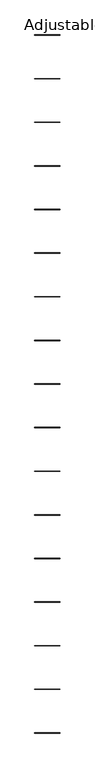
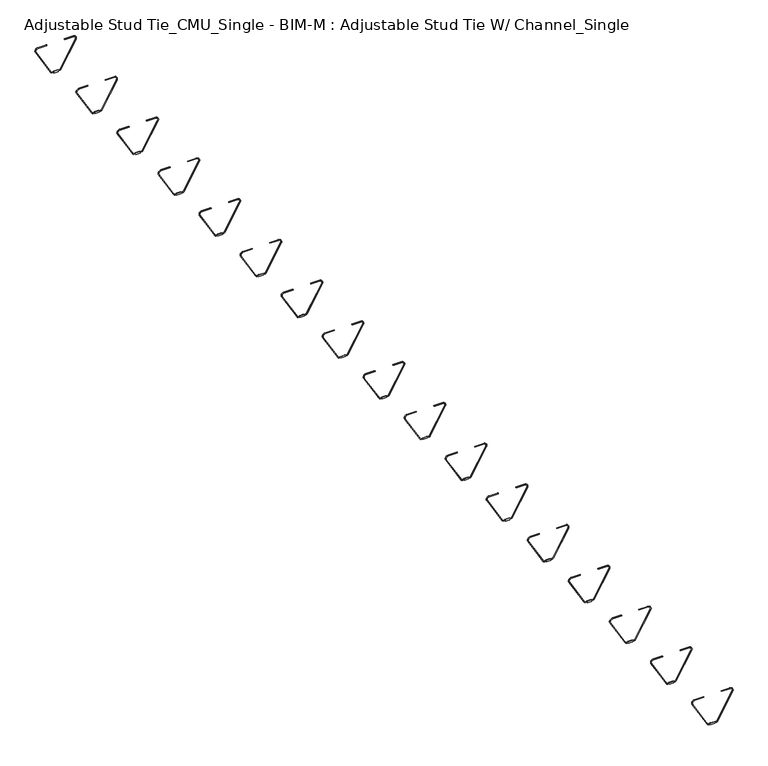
"""IFC4 building model written with IfcOpenShell, lengths in millimetres: proxy geometry, Adjustable Stud Tie_CMU_Single - BIM-M : Adjustable Stud Tie W/ Channel_Single."""

from ifc_helpers import new_model, si_unit, point, frame, frame_2d, origin, place, context, project, spatial, polyline, circle_curve, trimmed, segment, composite_curve, outline, extrude, source, transform, mapped, element, save


def adjustable_stud_tie_cmu_single_bim_m_adjustable_stud_tie_w_f0d1ca4a(model_context):
    return source(origin(), model_context, "Body", "SweptSolid", [
        extrude(outline(composite_curve([segment(polyline([(-115.6954737, -10.6919936), (-115.6954737, -6.35), (-117.475, -6.35), (-117.475, 6.35), (-115.6954737, 6.35), (-115.6954737, 10.6919936)]), True, "CONTINUOUS"), segment(trimmed(circle_curve(frame_2d((-111.2621335, 10.5975194)), 4.4343467), [point((-115.6954737, 10.6919936))], [point((-113.4793069, 14.4377763))], False, "CARTESIAN"), True, "CONTINUOUS"), segment(polyline([(-113.4793069, 14.4377763), (-38.3089403, 57.8374077)]), True, "CONTINUOUS"), segment(trimmed(circle_curve(frame_2d((-34.2420568, 50.7933588)), 8.133767), [point((-38.3089403, 57.8374077))], [point((-26.1197927, 51.2257847))], False, "CARTESIAN"), True, "CONTINUOUS"), segment(polyline([(-26.1197927, 51.2257847), (-26.1197927, 25.4), (-27.7072927, 25.4), (-27.7072927, 51.1812638)]), True, "CONTINUOUS"), segment(trimmed(circle_curve(frame_2d((-34.2420568, 50.7933588)), 6.546267), [point((-27.7072927, 51.1812638))], [point((-37.5151903, 56.4625923))], True, "CARTESIAN"), True, "CONTINUOUS"), segment(polyline([(-37.5151903, 56.4625923), (-112.6855569, 13.062961)]), True, "CONTINUOUS"), segment(trimmed(circle_curve(frame_2d((-111.2621335, 10.5975194)), 2.8468467), [point((-112.6855569, 13.062961))], [point((-114.1079737, 10.6732143))], True, "CARTESIAN"), True, "CONTINUOUS"), segment(polyline([(-114.1079737, 10.6732143), (-114.1079737, 6.35), (-112.7125, 6.35), (-112.7125, -6.35), (-114.1079737, -6.35), (-114.1079737, -10.6732143)]), True, "CONTINUOUS"), segment(trimmed(circle_curve(frame_2d((-111.2621335, -10.5975194)), 2.8468467), [point((-114.1079737, -10.6732143))], [point((-112.6855569, -13.062961))], True, "CARTESIAN"), True, "CONTINUOUS"), segment(polyline([(-112.6855569, -13.062961), (-37.5151903, -56.4625923)]), True, "CONTINUOUS"), segment(trimmed(circle_curve(frame_2d((-34.2420568, -50.7933588)), 6.546267), [point((-37.5151903, -56.4625923))], [point((-27.7072927, -51.1812638))], True, "CARTESIAN"), True, "CONTINUOUS"), segment(polyline([(-27.7072927, -51.1812638), (-27.7072927, -25.4), (-26.1197927, -25.4), (-26.1197927, -51.2257847)]), True, "CONTINUOUS"), segment(trimmed(circle_curve(frame_2d((-34.2420568, -50.7933588)), 8.133767), [point((-26.1197927, -51.2257847))], [point((-38.3089403, -57.8374077))], False, "CARTESIAN"), True, "CONTINUOUS"), segment(polyline([(-38.3089403, -57.8374077), (-113.4793069, -14.4377763)]), True, "CONTINUOUS"), segment(trimmed(circle_curve(frame_2d((-111.2621335, -10.5975194)), 4.4343467), [point((-113.4793069, -14.4377763))], [point((-115.6954737, -10.6919936))], False, "CARTESIAN"), True, "CONTINUOUS")], self_intersect=False)), frame((0.0, 8331.2, 0.0), z_axis=(0.0, 1.0, 0.0), x_axis=(0.0, 0.0, 1.0)), (0.0, 0.0, 1.0), 1.5875),
        extrude(outline(composite_curve([segment(polyline([(-115.6954737, -10.6919936), (-115.6954737, -6.35), (-117.475, -6.35), (-117.475, 6.35), (-115.6954737, 6.35), (-115.6954737, 10.6919936)]), True, "CONTINUOUS"), segment(trimmed(circle_curve(frame_2d((-111.2621335, 10.5975194)), 4.4343467), [point((-115.6954737, 10.6919936))], [point((-113.4793069, 14.4377763))], False, "CARTESIAN"), True, "CONTINUOUS"), segment(polyline([(-113.4793069, 14.4377763), (-38.3089403, 57.8374077)]), True, "CONTINUOUS"), segment(trimmed(circle_curve(frame_2d((-34.2420568, 50.7933588)), 8.133767), [point((-38.3089403, 57.8374077))], [point((-26.1197927, 51.2257847))], False, "CARTESIAN"), True, "CONTINUOUS"), segment(polyline([(-26.1197927, 51.2257847), (-26.1197927, 25.4), (-27.7072927, 25.4), (-27.7072927, 51.1812638)]), True, "CONTINUOUS"), segment(trimmed(circle_curve(frame_2d((-34.2420568, 50.7933588)), 6.546267), [point((-27.7072927, 51.1812638))], [point((-37.5151903, 56.4625923))], True, "CARTESIAN"), True, "CONTINUOUS"), segment(polyline([(-37.5151903, 56.4625923), (-112.6855569, 13.062961)]), True, "CONTINUOUS"), segment(trimmed(circle_curve(frame_2d((-111.2621335, 10.5975194)), 2.8468467), [point((-112.6855569, 13.062961))], [point((-114.1079737, 10.6732143))], True, "CARTESIAN"), True, "CONTINUOUS"), segment(polyline([(-114.1079737, 10.6732143), (-114.1079737, 6.35), (-112.7125, 6.35), (-112.7125, -6.35), (-114.1079737, -6.35), (-114.1079737, -10.6732143)]), True, "CONTINUOUS"), segment(trimmed(circle_curve(frame_2d((-111.2621335, -10.5975194)), 2.8468467), [point((-114.1079737, -10.6732143))], [point((-112.6855569, -13.062961))], True, "CARTESIAN"), True, "CONTINUOUS"), segment(polyline([(-112.6855569, -13.062961), (-37.5151903, -56.4625923)]), True, "CONTINUOUS"), segment(trimmed(circle_curve(frame_2d((-34.2420568, -50.7933588)), 6.546267), [point((-37.5151903, -56.4625923))], [point((-27.7072927, -51.1812638))], True, "CARTESIAN"), True, "CONTINUOUS"), segment(polyline([(-27.7072927, -51.1812638), (-27.7072927, -25.4), (-26.1197927, -25.4), (-26.1197927, -51.2257847)]), True, "CONTINUOUS"), segment(trimmed(circle_curve(frame_2d((-34.2420568, -50.7933588)), 8.133767), [point((-26.1197927, -51.2257847))], [point((-38.3089403, -57.8374077))], False, "CARTESIAN"), True, "CONTINUOUS"), segment(polyline([(-38.3089403, -57.8374077), (-113.4793069, -14.4377763)]), True, "CONTINUOUS"), segment(trimmed(circle_curve(frame_2d((-111.2621335, -10.5975194)), 4.4343467), [point((-113.4793069, -14.4377763))], [point((-115.6954737, -10.6919936))], False, "CARTESIAN"), True, "CONTINUOUS")], self_intersect=False)), frame((0.0, 8128.0, 0.0), z_axis=(0.0, 1.0, 0.0), x_axis=(0.0, 0.0, 1.0)), (0.0, 0.0, 1.0), 1.5875),
        extrude(outline(composite_curve([segment(polyline([(-115.6954737, -10.6919936), (-115.6954737, -6.35), (-117.475, -6.35), (-117.475, 6.35), (-115.6954737, 6.35), (-115.6954737, 10.6919936)]), True, "CONTINUOUS"), segment(trimmed(circle_curve(frame_2d((-111.2621335, 10.5975194)), 4.4343467), [point((-115.6954737, 10.6919936))], [point((-113.4793069, 14.4377763))], False, "CARTESIAN"), True, "CONTINUOUS"), segment(polyline([(-113.4793069, 14.4377763), (-38.3089403, 57.8374077)]), True, "CONTINUOUS"), segment(trimmed(circle_curve(frame_2d((-34.2420568, 50.7933588)), 8.133767), [point((-38.3089403, 57.8374077))], [point((-26.1197927, 51.2257847))], False, "CARTESIAN"), True, "CONTINUOUS"), segment(polyline([(-26.1197927, 51.2257847), (-26.1197927, 25.4), (-27.7072927, 25.4), (-27.7072927, 51.1812638)]), True, "CONTINUOUS"), segment(trimmed(circle_curve(frame_2d((-34.2420568, 50.7933588)), 6.546267), [point((-27.7072927, 51.1812638))], [point((-37.5151903, 56.4625923))], True, "CARTESIAN"), True, "CONTINUOUS"), segment(polyline([(-37.5151903, 56.4625923), (-112.6855569, 13.062961)]), True, "CONTINUOUS"), segment(trimmed(circle_curve(frame_2d((-111.2621335, 10.5975194)), 2.8468467), [point((-112.6855569, 13.062961))], [point((-114.1079737, 10.6732143))], True, "CARTESIAN"), True, "CONTINUOUS"), segment(polyline([(-114.1079737, 10.6732143), (-114.1079737, 6.35), (-112.7125, 6.35), (-112.7125, -6.35), (-114.1079737, -6.35), (-114.1079737, -10.6732143)]), True, "CONTINUOUS"), segment(trimmed(circle_curve(frame_2d((-111.2621335, -10.5975194)), 2.8468467), [point((-114.1079737, -10.6732143))], [point((-112.6855569, -13.062961))], True, "CARTESIAN"), True, "CONTINUOUS"), segment(polyline([(-112.6855569, -13.062961), (-37.5151903, -56.4625923)]), True, "CONTINUOUS"), segment(trimmed(circle_curve(frame_2d((-34.2420568, -50.7933588)), 6.546267), [point((-37.5151903, -56.4625923))], [point((-27.7072927, -51.1812638))], True, "CARTESIAN"), True, "CONTINUOUS"), segment(polyline([(-27.7072927, -51.1812638), (-27.7072927, -25.4), (-26.1197927, -25.4), (-26.1197927, -51.2257847)]), True, "CONTINUOUS"), segment(trimmed(circle_curve(frame_2d((-34.2420568, -50.7933588)), 8.133767), [point((-26.1197927, -51.2257847))], [point((-38.3089403, -57.8374077))], False, "CARTESIAN"), True, "CONTINUOUS"), segment(polyline([(-38.3089403, -57.8374077), (-113.4793069, -14.4377763)]), True, "CONTINUOUS"), segment(trimmed(circle_curve(frame_2d((-111.2621335, -10.5975194)), 4.4343467), [point((-113.4793069, -14.4377763))], [point((-115.6954737, -10.6919936))], False, "CARTESIAN"), True, "CONTINUOUS")], self_intersect=False)), frame((0.0, 7924.8, 0.0), z_axis=(0.0, 1.0, 0.0), x_axis=(0.0, 0.0, 1.0)), (0.0, 0.0, 1.0), 1.5875),
        extrude(outline(composite_curve([segment(polyline([(-115.6954737, -10.6919936), (-115.6954737, -6.35), (-117.475, -6.35), (-117.475, 6.35), (-115.6954737, 6.35), (-115.6954737, 10.6919936)]), True, "CONTINUOUS"), segment(trimmed(circle_curve(frame_2d((-111.2621335, 10.5975194)), 4.4343467), [point((-115.6954737, 10.6919936))], [point((-113.4793069, 14.4377763))], False, "CARTESIAN"), True, "CONTINUOUS"), segment(polyline([(-113.4793069, 14.4377763), (-38.3089403, 57.8374077)]), True, "CONTINUOUS"), segment(trimmed(circle_curve(frame_2d((-34.2420568, 50.7933588)), 8.133767), [point((-38.3089403, 57.8374077))], [point((-26.1197927, 51.2257847))], False, "CARTESIAN"), True, "CONTINUOUS"), segment(polyline([(-26.1197927, 51.2257847), (-26.1197927, 25.4), (-27.7072927, 25.4), (-27.7072927, 51.1812638)]), True, "CONTINUOUS"), segment(trimmed(circle_curve(frame_2d((-34.2420568, 50.7933588)), 6.546267), [point((-27.7072927, 51.1812638))], [point((-37.5151903, 56.4625923))], True, "CARTESIAN"), True, "CONTINUOUS"), segment(polyline([(-37.5151903, 56.4625923), (-112.6855569, 13.062961)]), True, "CONTINUOUS"), segment(trimmed(circle_curve(frame_2d((-111.2621335, 10.5975194)), 2.8468467), [point((-112.6855569, 13.062961))], [point((-114.1079737, 10.6732143))], True, "CARTESIAN"), True, "CONTINUOUS"), segment(polyline([(-114.1079737, 10.6732143), (-114.1079737, 6.35), (-112.7125, 6.35), (-112.7125, -6.35), (-114.1079737, -6.35), (-114.1079737, -10.6732143)]), True, "CONTINUOUS"), segment(trimmed(circle_curve(frame_2d((-111.2621335, -10.5975194)), 2.8468467), [point((-114.1079737, -10.6732143))], [point((-112.6855569, -13.062961))], True, "CARTESIAN"), True, "CONTINUOUS"), segment(polyline([(-112.6855569, -13.062961), (-37.5151903, -56.4625923)]), True, "CONTINUOUS"), segment(trimmed(circle_curve(frame_2d((-34.2420568, -50.7933588)), 6.546267), [point((-37.5151903, -56.4625923))], [point((-27.7072927, -51.1812638))], True, "CARTESIAN"), True, "CONTINUOUS"), segment(polyline([(-27.7072927, -51.1812638), (-27.7072927, -25.4), (-26.1197927, -25.4), (-26.1197927, -51.2257847)]), True, "CONTINUOUS"), segment(trimmed(circle_curve(frame_2d((-34.2420568, -50.7933588)), 8.133767), [point((-26.1197927, -51.2257847))], [point((-38.3089403, -57.8374077))], False, "CARTESIAN"), True, "CONTINUOUS"), segment(polyline([(-38.3089403, -57.8374077), (-113.4793069, -14.4377763)]), True, "CONTINUOUS"), segment(trimmed(circle_curve(frame_2d((-111.2621335, -10.5975194)), 4.4343467), [point((-113.4793069, -14.4377763))], [point((-115.6954737, -10.6919936))], False, "CARTESIAN"), True, "CONTINUOUS")], self_intersect=False)), frame((0.0, 7721.6, 0.0), z_axis=(0.0, 1.0, 0.0), x_axis=(0.0, 0.0, 1.0)), (0.0, 0.0, 1.0), 1.5875),
        extrude(outline(composite_curve([segment(polyline([(-115.6954737, -10.6919936), (-115.6954737, -6.35), (-117.475, -6.35), (-117.475, 6.35), (-115.6954737, 6.35), (-115.6954737, 10.6919936)]), True, "CONTINUOUS"), segment(trimmed(circle_curve(frame_2d((-111.2621335, 10.5975194)), 4.4343467), [point((-115.6954737, 10.6919936))], [point((-113.4793069, 14.4377763))], False, "CARTESIAN"), True, "CONTINUOUS"), segment(polyline([(-113.4793069, 14.4377763), (-38.3089403, 57.8374077)]), True, "CONTINUOUS"), segment(trimmed(circle_curve(frame_2d((-34.2420568, 50.7933588)), 8.133767), [point((-38.3089403, 57.8374077))], [point((-26.1197927, 51.2257847))], False, "CARTESIAN"), True, "CONTINUOUS"), segment(polyline([(-26.1197927, 51.2257847), (-26.1197927, 25.4), (-27.7072927, 25.4), (-27.7072927, 51.1812638)]), True, "CONTINUOUS"), segment(trimmed(circle_curve(frame_2d((-34.2420568, 50.7933588)), 6.546267), [point((-27.7072927, 51.1812638))], [point((-37.5151903, 56.4625923))], True, "CARTESIAN"), True, "CONTINUOUS"), segment(polyline([(-37.5151903, 56.4625923), (-112.6855569, 13.062961)]), True, "CONTINUOUS"), segment(trimmed(circle_curve(frame_2d((-111.2621335, 10.5975194)), 2.8468467), [point((-112.6855569, 13.062961))], [point((-114.1079737, 10.6732143))], True, "CARTESIAN"), True, "CONTINUOUS"), segment(polyline([(-114.1079737, 10.6732143), (-114.1079737, 6.35), (-112.7125, 6.35), (-112.7125, -6.35), (-114.1079737, -6.35), (-114.1079737, -10.6732143)]), True, "CONTINUOUS"), segment(trimmed(circle_curve(frame_2d((-111.2621335, -10.5975194)), 2.8468467), [point((-114.1079737, -10.6732143))], [point((-112.6855569, -13.062961))], True, "CARTESIAN"), True, "CONTINUOUS"), segment(polyline([(-112.6855569, -13.062961), (-37.5151903, -56.4625923)]), True, "CONTINUOUS"), segment(trimmed(circle_curve(frame_2d((-34.2420568, -50.7933588)), 6.546267), [point((-37.5151903, -56.4625923))], [point((-27.7072927, -51.1812638))], True, "CARTESIAN"), True, "CONTINUOUS"), segment(polyline([(-27.7072927, -51.1812638), (-27.7072927, -25.4), (-26.1197927, -25.4), (-26.1197927, -51.2257847)]), True, "CONTINUOUS"), segment(trimmed(circle_curve(frame_2d((-34.2420568, -50.7933588)), 8.133767), [point((-26.1197927, -51.2257847))], [point((-38.3089403, -57.8374077))], False, "CARTESIAN"), True, "CONTINUOUS"), segment(polyline([(-38.3089403, -57.8374077), (-113.4793069, -14.4377763)]), True, "CONTINUOUS"), segment(trimmed(circle_curve(frame_2d((-111.2621335, -10.5975194)), 4.4343467), [point((-113.4793069, -14.4377763))], [point((-115.6954737, -10.6919936))], False, "CARTESIAN"), True, "CONTINUOUS")], self_intersect=False)), frame((0.0, 7518.4, 0.0), z_axis=(0.0, 1.0, 0.0), x_axis=(0.0, 0.0, 1.0)), (0.0, 0.0, 1.0), 1.5875),
        extrude(outline(composite_curve([segment(polyline([(-115.6954737, -10.6919936), (-115.6954737, -6.35), (-117.475, -6.35), (-117.475, 6.35), (-115.6954737, 6.35), (-115.6954737, 10.6919936)]), True, "CONTINUOUS"), segment(trimmed(circle_curve(frame_2d((-111.2621335, 10.5975194)), 4.4343467), [point((-115.6954737, 10.6919936))], [point((-113.4793069, 14.4377763))], False, "CARTESIAN"), True, "CONTINUOUS"), segment(polyline([(-113.4793069, 14.4377763), (-38.3089403, 57.8374077)]), True, "CONTINUOUS"), segment(trimmed(circle_curve(frame_2d((-34.2420568, 50.7933588)), 8.133767), [point((-38.3089403, 57.8374077))], [point((-26.1197927, 51.2257847))], False, "CARTESIAN"), True, "CONTINUOUS"), segment(polyline([(-26.1197927, 51.2257847), (-26.1197927, 25.4), (-27.7072927, 25.4), (-27.7072927, 51.1812638)]), True, "CONTINUOUS"), segment(trimmed(circle_curve(frame_2d((-34.2420568, 50.7933588)), 6.546267), [point((-27.7072927, 51.1812638))], [point((-37.5151903, 56.4625923))], True, "CARTESIAN"), True, "CONTINUOUS"), segment(polyline([(-37.5151903, 56.4625923), (-112.6855569, 13.062961)]), True, "CONTINUOUS"), segment(trimmed(circle_curve(frame_2d((-111.2621335, 10.5975194)), 2.8468467), [point((-112.6855569, 13.062961))], [point((-114.1079737, 10.6732143))], True, "CARTESIAN"), True, "CONTINUOUS"), segment(polyline([(-114.1079737, 10.6732143), (-114.1079737, 6.35), (-112.7125, 6.35), (-112.7125, -6.35), (-114.1079737, -6.35), (-114.1079737, -10.6732143)]), True, "CONTINUOUS"), segment(trimmed(circle_curve(frame_2d((-111.2621335, -10.5975194)), 2.8468467), [point((-114.1079737, -10.6732143))], [point((-112.6855569, -13.062961))], True, "CARTESIAN"), True, "CONTINUOUS"), segment(polyline([(-112.6855569, -13.062961), (-37.5151903, -56.4625923)]), True, "CONTINUOUS"), segment(trimmed(circle_curve(frame_2d((-34.2420568, -50.7933588)), 6.546267), [point((-37.5151903, -56.4625923))], [point((-27.7072927, -51.1812638))], True, "CARTESIAN"), True, "CONTINUOUS"), segment(polyline([(-27.7072927, -51.1812638), (-27.7072927, -25.4), (-26.1197927, -25.4), (-26.1197927, -51.2257847)]), True, "CONTINUOUS"), segment(trimmed(circle_curve(frame_2d((-34.2420568, -50.7933588)), 8.133767), [point((-26.1197927, -51.2257847))], [point((-38.3089403, -57.8374077))], False, "CARTESIAN"), True, "CONTINUOUS"), segment(polyline([(-38.3089403, -57.8374077), (-113.4793069, -14.4377763)]), True, "CONTINUOUS"), segment(trimmed(circle_curve(frame_2d((-111.2621335, -10.5975194)), 4.4343467), [point((-113.4793069, -14.4377763))], [point((-115.6954737, -10.6919936))], False, "CARTESIAN"), True, "CONTINUOUS")], self_intersect=False)), frame((0.0, 7315.2, 0.0), z_axis=(0.0, 1.0, 0.0), x_axis=(0.0, 0.0, 1.0)), (0.0, 0.0, 1.0), 1.5875),
        extrude(outline(composite_curve([segment(polyline([(-115.6954737, -10.6919936), (-115.6954737, -6.35), (-117.475, -6.35), (-117.475, 6.35), (-115.6954737, 6.35), (-115.6954737, 10.6919936)]), True, "CONTINUOUS"), segment(trimmed(circle_curve(frame_2d((-111.2621335, 10.5975194)), 4.4343467), [point((-115.6954737, 10.6919936))], [point((-113.4793069, 14.4377763))], False, "CARTESIAN"), True, "CONTINUOUS"), segment(polyline([(-113.4793069, 14.4377763), (-38.3089403, 57.8374077)]), True, "CONTINUOUS"), segment(trimmed(circle_curve(frame_2d((-34.2420568, 50.7933588)), 8.133767), [point((-38.3089403, 57.8374077))], [point((-26.1197927, 51.2257847))], False, "CARTESIAN"), True, "CONTINUOUS"), segment(polyline([(-26.1197927, 51.2257847), (-26.1197927, 25.4), (-27.7072927, 25.4), (-27.7072927, 51.1812638)]), True, "CONTINUOUS"), segment(trimmed(circle_curve(frame_2d((-34.2420568, 50.7933588)), 6.546267), [point((-27.7072927, 51.1812638))], [point((-37.5151903, 56.4625923))], True, "CARTESIAN"), True, "CONTINUOUS"), segment(polyline([(-37.5151903, 56.4625923), (-112.6855569, 13.062961)]), True, "CONTINUOUS"), segment(trimmed(circle_curve(frame_2d((-111.2621335, 10.5975194)), 2.8468467), [point((-112.6855569, 13.062961))], [point((-114.1079737, 10.6732143))], True, "CARTESIAN"), True, "CONTINUOUS"), segment(polyline([(-114.1079737, 10.6732143), (-114.1079737, 6.35), (-112.7125, 6.35), (-112.7125, -6.35), (-114.1079737, -6.35), (-114.1079737, -10.6732143)]), True, "CONTINUOUS"), segment(trimmed(circle_curve(frame_2d((-111.2621335, -10.5975194)), 2.8468467), [point((-114.1079737, -10.6732143))], [point((-112.6855569, -13.062961))], True, "CARTESIAN"), True, "CONTINUOUS"), segment(polyline([(-112.6855569, -13.062961), (-37.5151903, -56.4625923)]), True, "CONTINUOUS"), segment(trimmed(circle_curve(frame_2d((-34.2420568, -50.7933588)), 6.546267), [point((-37.5151903, -56.4625923))], [point((-27.7072927, -51.1812638))], True, "CARTESIAN"), True, "CONTINUOUS"), segment(polyline([(-27.7072927, -51.1812638), (-27.7072927, -25.4), (-26.1197927, -25.4), (-26.1197927, -51.2257847)]), True, "CONTINUOUS"), segment(trimmed(circle_curve(frame_2d((-34.2420568, -50.7933588)), 8.133767), [point((-26.1197927, -51.2257847))], [point((-38.3089403, -57.8374077))], False, "CARTESIAN"), True, "CONTINUOUS"), segment(polyline([(-38.3089403, -57.8374077), (-113.4793069, -14.4377763)]), True, "CONTINUOUS"), segment(trimmed(circle_curve(frame_2d((-111.2621335, -10.5975194)), 4.4343467), [point((-113.4793069, -14.4377763))], [point((-115.6954737, -10.6919936))], False, "CARTESIAN"), True, "CONTINUOUS")], self_intersect=False)), frame((0.0, 7112.0, 0.0), z_axis=(0.0, 1.0, 0.0), x_axis=(0.0, 0.0, 1.0)), (0.0, 0.0, 1.0), 1.5875),
        extrude(outline(composite_curve([segment(polyline([(-115.6954737, -10.6919936), (-115.6954737, -6.35), (-117.475, -6.35), (-117.475, 6.35), (-115.6954737, 6.35), (-115.6954737, 10.6919936)]), True, "CONTINUOUS"), segment(trimmed(circle_curve(frame_2d((-111.2621335, 10.5975194)), 4.4343467), [point((-115.6954737, 10.6919936))], [point((-113.4793069, 14.4377763))], False, "CARTESIAN"), True, "CONTINUOUS"), segment(polyline([(-113.4793069, 14.4377763), (-38.3089403, 57.8374077)]), True, "CONTINUOUS"), segment(trimmed(circle_curve(frame_2d((-34.2420568, 50.7933588)), 8.133767), [point((-38.3089403, 57.8374077))], [point((-26.1197927, 51.2257847))], False, "CARTESIAN"), True, "CONTINUOUS"), segment(polyline([(-26.1197927, 51.2257847), (-26.1197927, 25.4), (-27.7072927, 25.4), (-27.7072927, 51.1812638)]), True, "CONTINUOUS"), segment(trimmed(circle_curve(frame_2d((-34.2420568, 50.7933588)), 6.546267), [point((-27.7072927, 51.1812638))], [point((-37.5151903, 56.4625923))], True, "CARTESIAN"), True, "CONTINUOUS"), segment(polyline([(-37.5151903, 56.4625923), (-112.6855569, 13.062961)]), True, "CONTINUOUS"), segment(trimmed(circle_curve(frame_2d((-111.2621335, 10.5975194)), 2.8468467), [point((-112.6855569, 13.062961))], [point((-114.1079737, 10.6732143))], True, "CARTESIAN"), True, "CONTINUOUS"), segment(polyline([(-114.1079737, 10.6732143), (-114.1079737, 6.35), (-112.7125, 6.35), (-112.7125, -6.35), (-114.1079737, -6.35), (-114.1079737, -10.6732143)]), True, "CONTINUOUS"), segment(trimmed(circle_curve(frame_2d((-111.2621335, -10.5975194)), 2.8468467), [point((-114.1079737, -10.6732143))], [point((-112.6855569, -13.062961))], True, "CARTESIAN"), True, "CONTINUOUS"), segment(polyline([(-112.6855569, -13.062961), (-37.5151903, -56.4625923)]), True, "CONTINUOUS"), segment(trimmed(circle_curve(frame_2d((-34.2420568, -50.7933588)), 6.546267), [point((-37.5151903, -56.4625923))], [point((-27.7072927, -51.1812638))], True, "CARTESIAN"), True, "CONTINUOUS"), segment(polyline([(-27.7072927, -51.1812638), (-27.7072927, -25.4), (-26.1197927, -25.4), (-26.1197927, -51.2257847)]), True, "CONTINUOUS"), segment(trimmed(circle_curve(frame_2d((-34.2420568, -50.7933588)), 8.133767), [point((-26.1197927, -51.2257847))], [point((-38.3089403, -57.8374077))], False, "CARTESIAN"), True, "CONTINUOUS"), segment(polyline([(-38.3089403, -57.8374077), (-113.4793069, -14.4377763)]), True, "CONTINUOUS"), segment(trimmed(circle_curve(frame_2d((-111.2621335, -10.5975194)), 4.4343467), [point((-113.4793069, -14.4377763))], [point((-115.6954737, -10.6919936))], False, "CARTESIAN"), True, "CONTINUOUS")], self_intersect=False)), frame((0.0, 6908.8, 0.0), z_axis=(0.0, 1.0, 0.0), x_axis=(0.0, 0.0, 1.0)), (0.0, 0.0, 1.0), 1.5875),
        extrude(outline(composite_curve([segment(polyline([(-115.6954737, -10.6919936), (-115.6954737, -6.35), (-117.475, -6.35), (-117.475, 6.35), (-115.6954737, 6.35), (-115.6954737, 10.6919936)]), True, "CONTINUOUS"), segment(trimmed(circle_curve(frame_2d((-111.2621335, 10.5975194)), 4.4343467), [point((-115.6954737, 10.6919936))], [point((-113.4793069, 14.4377763))], False, "CARTESIAN"), True, "CONTINUOUS"), segment(polyline([(-113.4793069, 14.4377763), (-38.3089403, 57.8374077)]), True, "CONTINUOUS"), segment(trimmed(circle_curve(frame_2d((-34.2420568, 50.7933588)), 8.133767), [point((-38.3089403, 57.8374077))], [point((-26.1197927, 51.2257847))], False, "CARTESIAN"), True, "CONTINUOUS"), segment(polyline([(-26.1197927, 51.2257847), (-26.1197927, 25.4), (-27.7072927, 25.4), (-27.7072927, 51.1812638)]), True, "CONTINUOUS"), segment(trimmed(circle_curve(frame_2d((-34.2420568, 50.7933588)), 6.546267), [point((-27.7072927, 51.1812638))], [point((-37.5151903, 56.4625923))], True, "CARTESIAN"), True, "CONTINUOUS"), segment(polyline([(-37.5151903, 56.4625923), (-112.6855569, 13.062961)]), True, "CONTINUOUS"), segment(trimmed(circle_curve(frame_2d((-111.2621335, 10.5975194)), 2.8468467), [point((-112.6855569, 13.062961))], [point((-114.1079737, 10.6732143))], True, "CARTESIAN"), True, "CONTINUOUS"), segment(polyline([(-114.1079737, 10.6732143), (-114.1079737, 6.35), (-112.7125, 6.35), (-112.7125, -6.35), (-114.1079737, -6.35), (-114.1079737, -10.6732143)]), True, "CONTINUOUS"), segment(trimmed(circle_curve(frame_2d((-111.2621335, -10.5975194)), 2.8468467), [point((-114.1079737, -10.6732143))], [point((-112.6855569, -13.062961))], True, "CARTESIAN"), True, "CONTINUOUS"), segment(polyline([(-112.6855569, -13.062961), (-37.5151903, -56.4625923)]), True, "CONTINUOUS"), segment(trimmed(circle_curve(frame_2d((-34.2420568, -50.7933588)), 6.546267), [point((-37.5151903, -56.4625923))], [point((-27.7072927, -51.1812638))], True, "CARTESIAN"), True, "CONTINUOUS"), segment(polyline([(-27.7072927, -51.1812638), (-27.7072927, -25.4), (-26.1197927, -25.4), (-26.1197927, -51.2257847)]), True, "CONTINUOUS"), segment(trimmed(circle_curve(frame_2d((-34.2420568, -50.7933588)), 8.133767), [point((-26.1197927, -51.2257847))], [point((-38.3089403, -57.8374077))], False, "CARTESIAN"), True, "CONTINUOUS"), segment(polyline([(-38.3089403, -57.8374077), (-113.4793069, -14.4377763)]), True, "CONTINUOUS"), segment(trimmed(circle_curve(frame_2d((-111.2621335, -10.5975194)), 4.4343467), [point((-113.4793069, -14.4377763))], [point((-115.6954737, -10.6919936))], False, "CARTESIAN"), True, "CONTINUOUS")], self_intersect=False)), frame((0.0, 6705.6, 0.0), z_axis=(0.0, 1.0, 0.0), x_axis=(0.0, 0.0, 1.0)), (0.0, 0.0, 1.0), 1.5875),
        extrude(outline(composite_curve([segment(polyline([(-115.6954737, -10.6919936), (-115.6954737, -6.35), (-117.475, -6.35), (-117.475, 6.35), (-115.6954737, 6.35), (-115.6954737, 10.6919936)]), True, "CONTINUOUS"), segment(trimmed(circle_curve(frame_2d((-111.2621335, 10.5975194)), 4.4343467), [point((-115.6954737, 10.6919936))], [point((-113.4793069, 14.4377763))], False, "CARTESIAN"), True, "CONTINUOUS"), segment(polyline([(-113.4793069, 14.4377763), (-38.3089403, 57.8374077)]), True, "CONTINUOUS"), segment(trimmed(circle_curve(frame_2d((-34.2420568, 50.7933588)), 8.133767), [point((-38.3089403, 57.8374077))], [point((-26.1197927, 51.2257847))], False, "CARTESIAN"), True, "CONTINUOUS"), segment(polyline([(-26.1197927, 51.2257847), (-26.1197927, 25.4), (-27.7072927, 25.4), (-27.7072927, 51.1812638)]), True, "CONTINUOUS"), segment(trimmed(circle_curve(frame_2d((-34.2420568, 50.7933588)), 6.546267), [point((-27.7072927, 51.1812638))], [point((-37.5151903, 56.4625923))], True, "CARTESIAN"), True, "CONTINUOUS"), segment(polyline([(-37.5151903, 56.4625923), (-112.6855569, 13.062961)]), True, "CONTINUOUS"), segment(trimmed(circle_curve(frame_2d((-111.2621335, 10.5975194)), 2.8468467), [point((-112.6855569, 13.062961))], [point((-114.1079737, 10.6732143))], True, "CARTESIAN"), True, "CONTINUOUS"), segment(polyline([(-114.1079737, 10.6732143), (-114.1079737, 6.35), (-112.7125, 6.35), (-112.7125, -6.35), (-114.1079737, -6.35), (-114.1079737, -10.6732143)]), True, "CONTINUOUS"), segment(trimmed(circle_curve(frame_2d((-111.2621335, -10.5975194)), 2.8468467), [point((-114.1079737, -10.6732143))], [point((-112.6855569, -13.062961))], True, "CARTESIAN"), True, "CONTINUOUS"), segment(polyline([(-112.6855569, -13.062961), (-37.5151903, -56.4625923)]), True, "CONTINUOUS"), segment(trimmed(circle_curve(frame_2d((-34.2420568, -50.7933588)), 6.546267), [point((-37.5151903, -56.4625923))], [point((-27.7072927, -51.1812638))], True, "CARTESIAN"), True, "CONTINUOUS"), segment(polyline([(-27.7072927, -51.1812638), (-27.7072927, -25.4), (-26.1197927, -25.4), (-26.1197927, -51.2257847)]), True, "CONTINUOUS"), segment(trimmed(circle_curve(frame_2d((-34.2420568, -50.7933588)), 8.133767), [point((-26.1197927, -51.2257847))], [point((-38.3089403, -57.8374077))], False, "CARTESIAN"), True, "CONTINUOUS"), segment(polyline([(-38.3089403, -57.8374077), (-113.4793069, -14.4377763)]), True, "CONTINUOUS"), segment(trimmed(circle_curve(frame_2d((-111.2621335, -10.5975194)), 4.4343467), [point((-113.4793069, -14.4377763))], [point((-115.6954737, -10.6919936))], False, "CARTESIAN"), True, "CONTINUOUS")], self_intersect=False)), frame((0.0, 6502.4, 0.0), z_axis=(0.0, 1.0, 0.0), x_axis=(0.0, 0.0, 1.0)), (0.0, 0.0, 1.0), 1.5875),
        extrude(outline(composite_curve([segment(polyline([(-115.6954737, -10.6919936), (-115.6954737, -6.35), (-117.475, -6.35), (-117.475, 6.35), (-115.6954737, 6.35), (-115.6954737, 10.6919936)]), True, "CONTINUOUS"), segment(trimmed(circle_curve(frame_2d((-111.2621335, 10.5975194)), 4.4343467), [point((-115.6954737, 10.6919936))], [point((-113.4793069, 14.4377763))], False, "CARTESIAN"), True, "CONTINUOUS"), segment(polyline([(-113.4793069, 14.4377763), (-38.3089403, 57.8374077)]), True, "CONTINUOUS"), segment(trimmed(circle_curve(frame_2d((-34.2420568, 50.7933588)), 8.133767), [point((-38.3089403, 57.8374077))], [point((-26.1197927, 51.2257847))], False, "CARTESIAN"), True, "CONTINUOUS"), segment(polyline([(-26.1197927, 51.2257847), (-26.1197927, 25.4), (-27.7072927, 25.4), (-27.7072927, 51.1812638)]), True, "CONTINUOUS"), segment(trimmed(circle_curve(frame_2d((-34.2420568, 50.7933588)), 6.546267), [point((-27.7072927, 51.1812638))], [point((-37.5151903, 56.4625923))], True, "CARTESIAN"), True, "CONTINUOUS"), segment(polyline([(-37.5151903, 56.4625923), (-112.6855569, 13.062961)]), True, "CONTINUOUS"), segment(trimmed(circle_curve(frame_2d((-111.2621335, 10.5975194)), 2.8468467), [point((-112.6855569, 13.062961))], [point((-114.1079737, 10.6732143))], True, "CARTESIAN"), True, "CONTINUOUS"), segment(polyline([(-114.1079737, 10.6732143), (-114.1079737, 6.35), (-112.7125, 6.35), (-112.7125, -6.35), (-114.1079737, -6.35), (-114.1079737, -10.6732143)]), True, "CONTINUOUS"), segment(trimmed(circle_curve(frame_2d((-111.2621335, -10.5975194)), 2.8468467), [point((-114.1079737, -10.6732143))], [point((-112.6855569, -13.062961))], True, "CARTESIAN"), True, "CONTINUOUS"), segment(polyline([(-112.6855569, -13.062961), (-37.5151903, -56.4625923)]), True, "CONTINUOUS"), segment(trimmed(circle_curve(frame_2d((-34.2420568, -50.7933588)), 6.546267), [point((-37.5151903, -56.4625923))], [point((-27.7072927, -51.1812638))], True, "CARTESIAN"), True, "CONTINUOUS"), segment(polyline([(-27.7072927, -51.1812638), (-27.7072927, -25.4), (-26.1197927, -25.4), (-26.1197927, -51.2257847)]), True, "CONTINUOUS"), segment(trimmed(circle_curve(frame_2d((-34.2420568, -50.7933588)), 8.133767), [point((-26.1197927, -51.2257847))], [point((-38.3089403, -57.8374077))], False, "CARTESIAN"), True, "CONTINUOUS"), segment(polyline([(-38.3089403, -57.8374077), (-113.4793069, -14.4377763)]), True, "CONTINUOUS"), segment(trimmed(circle_curve(frame_2d((-111.2621335, -10.5975194)), 4.4343467), [point((-113.4793069, -14.4377763))], [point((-115.6954737, -10.6919936))], False, "CARTESIAN"), True, "CONTINUOUS")], self_intersect=False)), frame((0.0, 6299.2, 0.0), z_axis=(0.0, 1.0, 0.0), x_axis=(0.0, 0.0, 1.0)), (0.0, 0.0, 1.0), 1.5875),
        extrude(outline(composite_curve([segment(polyline([(-115.6954737, -10.6919936), (-115.6954737, -6.35), (-117.475, -6.35), (-117.475, 6.35), (-115.6954737, 6.35), (-115.6954737, 10.6919936)]), True, "CONTINUOUS"), segment(trimmed(circle_curve(frame_2d((-111.2621335, 10.5975194)), 4.4343467), [point((-115.6954737, 10.6919936))], [point((-113.4793069, 14.4377763))], False, "CARTESIAN"), True, "CONTINUOUS"), segment(polyline([(-113.4793069, 14.4377763), (-38.3089403, 57.8374077)]), True, "CONTINUOUS"), segment(trimmed(circle_curve(frame_2d((-34.2420568, 50.7933588)), 8.133767), [point((-38.3089403, 57.8374077))], [point((-26.1197927, 51.2257847))], False, "CARTESIAN"), True, "CONTINUOUS"), segment(polyline([(-26.1197927, 51.2257847), (-26.1197927, 25.4), (-27.7072927, 25.4), (-27.7072927, 51.1812638)]), True, "CONTINUOUS"), segment(trimmed(circle_curve(frame_2d((-34.2420568, 50.7933588)), 6.546267), [point((-27.7072927, 51.1812638))], [point((-37.5151903, 56.4625923))], True, "CARTESIAN"), True, "CONTINUOUS"), segment(polyline([(-37.5151903, 56.4625923), (-112.6855569, 13.062961)]), True, "CONTINUOUS"), segment(trimmed(circle_curve(frame_2d((-111.2621335, 10.5975194)), 2.8468467), [point((-112.6855569, 13.062961))], [point((-114.1079737, 10.6732143))], True, "CARTESIAN"), True, "CONTINUOUS"), segment(polyline([(-114.1079737, 10.6732143), (-114.1079737, 6.35), (-112.7125, 6.35), (-112.7125, -6.35), (-114.1079737, -6.35), (-114.1079737, -10.6732143)]), True, "CONTINUOUS"), segment(trimmed(circle_curve(frame_2d((-111.2621335, -10.5975194)), 2.8468467), [point((-114.1079737, -10.6732143))], [point((-112.6855569, -13.062961))], True, "CARTESIAN"), True, "CONTINUOUS"), segment(polyline([(-112.6855569, -13.062961), (-37.5151903, -56.4625923)]), True, "CONTINUOUS"), segment(trimmed(circle_curve(frame_2d((-34.2420568, -50.7933588)), 6.546267), [point((-37.5151903, -56.4625923))], [point((-27.7072927, -51.1812638))], True, "CARTESIAN"), True, "CONTINUOUS"), segment(polyline([(-27.7072927, -51.1812638), (-27.7072927, -25.4), (-26.1197927, -25.4), (-26.1197927, -51.2257847)]), True, "CONTINUOUS"), segment(trimmed(circle_curve(frame_2d((-34.2420568, -50.7933588)), 8.133767), [point((-26.1197927, -51.2257847))], [point((-38.3089403, -57.8374077))], False, "CARTESIAN"), True, "CONTINUOUS"), segment(polyline([(-38.3089403, -57.8374077), (-113.4793069, -14.4377763)]), True, "CONTINUOUS"), segment(trimmed(circle_curve(frame_2d((-111.2621335, -10.5975194)), 4.4343467), [point((-113.4793069, -14.4377763))], [point((-115.6954737, -10.6919936))], False, "CARTESIAN"), True, "CONTINUOUS")], self_intersect=False)), frame((0.0, 6096.0, 0.0), z_axis=(0.0, 1.0, 0.0), x_axis=(0.0, 0.0, 1.0)), (0.0, 0.0, 1.0), 1.5875),
        extrude(outline(composite_curve([segment(polyline([(-115.6954737, -10.6919936), (-115.6954737, -6.35), (-117.475, -6.35), (-117.475, 6.35), (-115.6954737, 6.35), (-115.6954737, 10.6919936)]), True, "CONTINUOUS"), segment(trimmed(circle_curve(frame_2d((-111.2621335, 10.5975194)), 4.4343467), [point((-115.6954737, 10.6919936))], [point((-113.4793069, 14.4377763))], False, "CARTESIAN"), True, "CONTINUOUS"), segment(polyline([(-113.4793069, 14.4377763), (-38.3089403, 57.8374077)]), True, "CONTINUOUS"), segment(trimmed(circle_curve(frame_2d((-34.2420568, 50.7933588)), 8.133767), [point((-38.3089403, 57.8374077))], [point((-26.1197927, 51.2257847))], False, "CARTESIAN"), True, "CONTINUOUS"), segment(polyline([(-26.1197927, 51.2257847), (-26.1197927, 25.4), (-27.7072927, 25.4), (-27.7072927, 51.1812638)]), True, "CONTINUOUS"), segment(trimmed(circle_curve(frame_2d((-34.2420568, 50.7933588)), 6.546267), [point((-27.7072927, 51.1812638))], [point((-37.5151903, 56.4625923))], True, "CARTESIAN"), True, "CONTINUOUS"), segment(polyline([(-37.5151903, 56.4625923), (-112.6855569, 13.062961)]), True, "CONTINUOUS"), segment(trimmed(circle_curve(frame_2d((-111.2621335, 10.5975194)), 2.8468467), [point((-112.6855569, 13.062961))], [point((-114.1079737, 10.6732143))], True, "CARTESIAN"), True, "CONTINUOUS"), segment(polyline([(-114.1079737, 10.6732143), (-114.1079737, 6.35), (-112.7125, 6.35), (-112.7125, -6.35), (-114.1079737, -6.35), (-114.1079737, -10.6732143)]), True, "CONTINUOUS"), segment(trimmed(circle_curve(frame_2d((-111.2621335, -10.5975194)), 2.8468467), [point((-114.1079737, -10.6732143))], [point((-112.6855569, -13.062961))], True, "CARTESIAN"), True, "CONTINUOUS"), segment(polyline([(-112.6855569, -13.062961), (-37.5151903, -56.4625923)]), True, "CONTINUOUS"), segment(trimmed(circle_curve(frame_2d((-34.2420568, -50.7933588)), 6.546267), [point((-37.5151903, -56.4625923))], [point((-27.7072927, -51.1812638))], True, "CARTESIAN"), True, "CONTINUOUS"), segment(polyline([(-27.7072927, -51.1812638), (-27.7072927, -25.4), (-26.1197927, -25.4), (-26.1197927, -51.2257847)]), True, "CONTINUOUS"), segment(trimmed(circle_curve(frame_2d((-34.2420568, -50.7933588)), 8.133767), [point((-26.1197927, -51.2257847))], [point((-38.3089403, -57.8374077))], False, "CARTESIAN"), True, "CONTINUOUS"), segment(polyline([(-38.3089403, -57.8374077), (-113.4793069, -14.4377763)]), True, "CONTINUOUS"), segment(trimmed(circle_curve(frame_2d((-111.2621335, -10.5975194)), 4.4343467), [point((-113.4793069, -14.4377763))], [point((-115.6954737, -10.6919936))], False, "CARTESIAN"), True, "CONTINUOUS")], self_intersect=False)), frame((0.0, 5892.8, 0.0), z_axis=(0.0, 1.0, 0.0), x_axis=(0.0, 0.0, 1.0)), (0.0, 0.0, 1.0), 1.5875),
        extrude(outline(composite_curve([segment(polyline([(-115.6954737, -10.6919936), (-115.6954737, -6.35), (-117.475, -6.35), (-117.475, 6.35), (-115.6954737, 6.35), (-115.6954737, 10.6919936)]), True, "CONTINUOUS"), segment(trimmed(circle_curve(frame_2d((-111.2621335, 10.5975194)), 4.4343467), [point((-115.6954737, 10.6919936))], [point((-113.4793069, 14.4377763))], False, "CARTESIAN"), True, "CONTINUOUS"), segment(polyline([(-113.4793069, 14.4377763), (-38.3089403, 57.8374077)]), True, "CONTINUOUS"), segment(trimmed(circle_curve(frame_2d((-34.2420568, 50.7933588)), 8.133767), [point((-38.3089403, 57.8374077))], [point((-26.1197927, 51.2257847))], False, "CARTESIAN"), True, "CONTINUOUS"), segment(polyline([(-26.1197927, 51.2257847), (-26.1197927, 25.4), (-27.7072927, 25.4), (-27.7072927, 51.1812638)]), True, "CONTINUOUS"), segment(trimmed(circle_curve(frame_2d((-34.2420568, 50.7933588)), 6.546267), [point((-27.7072927, 51.1812638))], [point((-37.5151903, 56.4625923))], True, "CARTESIAN"), True, "CONTINUOUS"), segment(polyline([(-37.5151903, 56.4625923), (-112.6855569, 13.062961)]), True, "CONTINUOUS"), segment(trimmed(circle_curve(frame_2d((-111.2621335, 10.5975194)), 2.8468467), [point((-112.6855569, 13.062961))], [point((-114.1079737, 10.6732143))], True, "CARTESIAN"), True, "CONTINUOUS"), segment(polyline([(-114.1079737, 10.6732143), (-114.1079737, 6.35), (-112.7125, 6.35), (-112.7125, -6.35), (-114.1079737, -6.35), (-114.1079737, -10.6732143)]), True, "CONTINUOUS"), segment(trimmed(circle_curve(frame_2d((-111.2621335, -10.5975194)), 2.8468467), [point((-114.1079737, -10.6732143))], [point((-112.6855569, -13.062961))], True, "CARTESIAN"), True, "CONTINUOUS"), segment(polyline([(-112.6855569, -13.062961), (-37.5151903, -56.4625923)]), True, "CONTINUOUS"), segment(trimmed(circle_curve(frame_2d((-34.2420568, -50.7933588)), 6.546267), [point((-37.5151903, -56.4625923))], [point((-27.7072927, -51.1812638))], True, "CARTESIAN"), True, "CONTINUOUS"), segment(polyline([(-27.7072927, -51.1812638), (-27.7072927, -25.4), (-26.1197927, -25.4), (-26.1197927, -51.2257847)]), True, "CONTINUOUS"), segment(trimmed(circle_curve(frame_2d((-34.2420568, -50.7933588)), 8.133767), [point((-26.1197927, -51.2257847))], [point((-38.3089403, -57.8374077))], False, "CARTESIAN"), True, "CONTINUOUS"), segment(polyline([(-38.3089403, -57.8374077), (-113.4793069, -14.4377763)]), True, "CONTINUOUS"), segment(trimmed(circle_curve(frame_2d((-111.2621335, -10.5975194)), 4.4343467), [point((-113.4793069, -14.4377763))], [point((-115.6954737, -10.6919936))], False, "CARTESIAN"), True, "CONTINUOUS")], self_intersect=False)), frame((0.0, 5689.6, 0.0), z_axis=(0.0, 1.0, 0.0), x_axis=(0.0, 0.0, 1.0)), (0.0, 0.0, 1.0), 1.5875),
        extrude(outline(composite_curve([segment(polyline([(-115.6954737, -10.6919936), (-115.6954737, -6.35), (-117.475, -6.35), (-117.475, 6.35), (-115.6954737, 6.35), (-115.6954737, 10.6919936)]), True, "CONTINUOUS"), segment(trimmed(circle_curve(frame_2d((-111.2621335, 10.5975194)), 4.4343467), [point((-115.6954737, 10.6919936))], [point((-113.4793069, 14.4377763))], False, "CARTESIAN"), True, "CONTINUOUS"), segment(polyline([(-113.4793069, 14.4377763), (-38.3089403, 57.8374077)]), True, "CONTINUOUS"), segment(trimmed(circle_curve(frame_2d((-34.2420568, 50.7933588)), 8.133767), [point((-38.3089403, 57.8374077))], [point((-26.1197927, 51.2257847))], False, "CARTESIAN"), True, "CONTINUOUS"), segment(polyline([(-26.1197927, 51.2257847), (-26.1197927, 25.4), (-27.7072927, 25.4), (-27.7072927, 51.1812638)]), True, "CONTINUOUS"), segment(trimmed(circle_curve(frame_2d((-34.2420568, 50.7933588)), 6.546267), [point((-27.7072927, 51.1812638))], [point((-37.5151903, 56.4625923))], True, "CARTESIAN"), True, "CONTINUOUS"), segment(polyline([(-37.5151903, 56.4625923), (-112.6855569, 13.062961)]), True, "CONTINUOUS"), segment(trimmed(circle_curve(frame_2d((-111.2621335, 10.5975194)), 2.8468467), [point((-112.6855569, 13.062961))], [point((-114.1079737, 10.6732143))], True, "CARTESIAN"), True, "CONTINUOUS"), segment(polyline([(-114.1079737, 10.6732143), (-114.1079737, 6.35), (-112.7125, 6.35), (-112.7125, -6.35), (-114.1079737, -6.35), (-114.1079737, -10.6732143)]), True, "CONTINUOUS"), segment(trimmed(circle_curve(frame_2d((-111.2621335, -10.5975194)), 2.8468467), [point((-114.1079737, -10.6732143))], [point((-112.6855569, -13.062961))], True, "CARTESIAN"), True, "CONTINUOUS"), segment(polyline([(-112.6855569, -13.062961), (-37.5151903, -56.4625923)]), True, "CONTINUOUS"), segment(trimmed(circle_curve(frame_2d((-34.2420568, -50.7933588)), 6.546267), [point((-37.5151903, -56.4625923))], [point((-27.7072927, -51.1812638))], True, "CARTESIAN"), True, "CONTINUOUS"), segment(polyline([(-27.7072927, -51.1812638), (-27.7072927, -25.4), (-26.1197927, -25.4), (-26.1197927, -51.2257847)]), True, "CONTINUOUS"), segment(trimmed(circle_curve(frame_2d((-34.2420568, -50.7933588)), 8.133767), [point((-26.1197927, -51.2257847))], [point((-38.3089403, -57.8374077))], False, "CARTESIAN"), True, "CONTINUOUS"), segment(polyline([(-38.3089403, -57.8374077), (-113.4793069, -14.4377763)]), True, "CONTINUOUS"), segment(trimmed(circle_curve(frame_2d((-111.2621335, -10.5975194)), 4.4343467), [point((-113.4793069, -14.4377763))], [point((-115.6954737, -10.6919936))], False, "CARTESIAN"), True, "CONTINUOUS")], self_intersect=False)), frame((0.0, 5486.4, 0.0), z_axis=(0.0, 1.0, 0.0), x_axis=(0.0, 0.0, 1.0)), (0.0, 0.0, 1.0), 1.5875),
        extrude(outline(composite_curve([segment(polyline([(-115.6954737, -10.6919936), (-115.6954737, -6.35), (-117.475, -6.35), (-117.475, 6.35), (-115.6954737, 6.35), (-115.6954737, 10.6919936)]), True, "CONTINUOUS"), segment(trimmed(circle_curve(frame_2d((-111.2621335, 10.5975194)), 4.4343467), [point((-115.6954737, 10.6919936))], [point((-113.4793069, 14.4377763))], False, "CARTESIAN"), True, "CONTINUOUS"), segment(polyline([(-113.4793069, 14.4377763), (-38.3089403, 57.8374077)]), True, "CONTINUOUS"), segment(trimmed(circle_curve(frame_2d((-34.2420568, 50.7933588)), 8.133767), [point((-38.3089403, 57.8374077))], [point((-26.1197927, 51.2257847))], False, "CARTESIAN"), True, "CONTINUOUS"), segment(polyline([(-26.1197927, 51.2257847), (-26.1197927, 25.4), (-27.7072927, 25.4), (-27.7072927, 51.1812638)]), True, "CONTINUOUS"), segment(trimmed(circle_curve(frame_2d((-34.2420568, 50.7933588)), 6.546267), [point((-27.7072927, 51.1812638))], [point((-37.5151903, 56.4625923))], True, "CARTESIAN"), True, "CONTINUOUS"), segment(polyline([(-37.5151903, 56.4625923), (-112.6855569, 13.062961)]), True, "CONTINUOUS"), segment(trimmed(circle_curve(frame_2d((-111.2621335, 10.5975194)), 2.8468467), [point((-112.6855569, 13.062961))], [point((-114.1079737, 10.6732143))], True, "CARTESIAN"), True, "CONTINUOUS"), segment(polyline([(-114.1079737, 10.6732143), (-114.1079737, 6.35), (-112.7125, 6.35), (-112.7125, -6.35), (-114.1079737, -6.35), (-114.1079737, -10.6732143)]), True, "CONTINUOUS"), segment(trimmed(circle_curve(frame_2d((-111.2621335, -10.5975194)), 2.8468467), [point((-114.1079737, -10.6732143))], [point((-112.6855569, -13.062961))], True, "CARTESIAN"), True, "CONTINUOUS"), segment(polyline([(-112.6855569, -13.062961), (-37.5151903, -56.4625923)]), True, "CONTINUOUS"), segment(trimmed(circle_curve(frame_2d((-34.2420568, -50.7933588)), 6.546267), [point((-37.5151903, -56.4625923))], [point((-27.7072927, -51.1812638))], True, "CARTESIAN"), True, "CONTINUOUS"), segment(polyline([(-27.7072927, -51.1812638), (-27.7072927, -25.4), (-26.1197927, -25.4), (-26.1197927, -51.2257847)]), True, "CONTINUOUS"), segment(trimmed(circle_curve(frame_2d((-34.2420568, -50.7933588)), 8.133767), [point((-26.1197927, -51.2257847))], [point((-38.3089403, -57.8374077))], False, "CARTESIAN"), True, "CONTINUOUS"), segment(polyline([(-38.3089403, -57.8374077), (-113.4793069, -14.4377763)]), True, "CONTINUOUS"), segment(trimmed(circle_curve(frame_2d((-111.2621335, -10.5975194)), 4.4343467), [point((-113.4793069, -14.4377763))], [point((-115.6954737, -10.6919936))], False, "CARTESIAN"), True, "CONTINUOUS")], self_intersect=False)), frame((0.0, 5283.2, 0.0), z_axis=(0.0, 1.0, 0.0), x_axis=(0.0, 0.0, 1.0)), (0.0, 0.0, 1.0), 1.5875),
        extrude(outline(composite_curve([segment(polyline([(-115.6954737, -10.6919936), (-115.6954737, -6.35), (-117.475, -6.35), (-117.475, 6.35), (-115.6954737, 6.35), (-115.6954737, 10.6919936)]), True, "CONTINUOUS"), segment(trimmed(circle_curve(frame_2d((-111.2621335, 10.5975194)), 4.4343467), [point((-115.6954737, 10.6919936))], [point((-113.4793069, 14.4377763))], False, "CARTESIAN"), True, "CONTINUOUS"), segment(polyline([(-113.4793069, 14.4377763), (-38.3089403, 57.8374077)]), True, "CONTINUOUS"), segment(trimmed(circle_curve(frame_2d((-34.2420568, 50.7933588)), 8.133767), [point((-38.3089403, 57.8374077))], [point((-26.1197927, 51.2257847))], False, "CARTESIAN"), True, "CONTINUOUS"), segment(polyline([(-26.1197927, 51.2257847), (-26.1197927, 25.4), (-27.7072927, 25.4), (-27.7072927, 51.1812638)]), True, "CONTINUOUS"), segment(trimmed(circle_curve(frame_2d((-34.2420568, 50.7933588)), 6.546267), [point((-27.7072927, 51.1812638))], [point((-37.5151903, 56.4625923))], True, "CARTESIAN"), True, "CONTINUOUS"), segment(polyline([(-37.5151903, 56.4625923), (-112.6855569, 13.062961)]), True, "CONTINUOUS"), segment(trimmed(circle_curve(frame_2d((-111.2621335, 10.5975194)), 2.8468467), [point((-112.6855569, 13.062961))], [point((-114.1079737, 10.6732143))], True, "CARTESIAN"), True, "CONTINUOUS"), segment(polyline([(-114.1079737, 10.6732143), (-114.1079737, 6.35), (-112.7125, 6.35), (-112.7125, -6.35), (-114.1079737, -6.35), (-114.1079737, -10.6732143)]), True, "CONTINUOUS"), segment(trimmed(circle_curve(frame_2d((-111.2621335, -10.5975194)), 2.8468467), [point((-114.1079737, -10.6732143))], [point((-112.6855569, -13.062961))], True, "CARTESIAN"), True, "CONTINUOUS"), segment(polyline([(-112.6855569, -13.062961), (-37.5151903, -56.4625923)]), True, "CONTINUOUS"), segment(trimmed(circle_curve(frame_2d((-34.2420568, -50.7933588)), 6.546267), [point((-37.5151903, -56.4625923))], [point((-27.7072927, -51.1812638))], True, "CARTESIAN"), True, "CONTINUOUS"), segment(polyline([(-27.7072927, -51.1812638), (-27.7072927, -25.4), (-26.1197927, -25.4), (-26.1197927, -51.2257847)]), True, "CONTINUOUS"), segment(trimmed(circle_curve(frame_2d((-34.2420568, -50.7933588)), 8.133767), [point((-26.1197927, -51.2257847))], [point((-38.3089403, -57.8374077))], False, "CARTESIAN"), True, "CONTINUOUS"), segment(polyline([(-38.3089403, -57.8374077), (-113.4793069, -14.4377763)]), True, "CONTINUOUS"), segment(trimmed(circle_curve(frame_2d((-111.2621335, -10.5975194)), 4.4343467), [point((-113.4793069, -14.4377763))], [point((-115.6954737, -10.6919936))], False, "CARTESIAN"), True, "CONTINUOUS")], self_intersect=False)), frame((0.0, 5080.0, 0.0), z_axis=(0.0, 1.0, 0.0), x_axis=(0.0, 0.0, 1.0)), (0.0, 0.0, 1.0), 1.5875),
    ])


if __name__ == "__main__":
    model = new_model("IFC4")
    model_context = context("Model", 3, world=origin())
    ifc_project = project(units=[si_unit("LENGTHUNIT", "METRE", prefix="MILLI")], contexts=[model_context])
    site = spatial("IfcSite", under=ifc_project)
    building = spatial("IfcBuilding", under=site)
    placement = place(None, origin())
    adjustable_stud_tie_cmu_single_bim_m_adjustable_stud_tie_w_shape = adjustable_stud_tie_cmu_single_bim_m_adjustable_stud_tie_w_f0d1ca4a(model_context)
    element("IfcBuildingElementProxy", 1, Name="Adjustable Stud Tie_CMU_Single - BIM-M : Adjustable Stud Tie W/ Channel_Single", ObjectType="Adjustable Stud Tie_CMU_Single - BIM-M : Adjustable Stud Tie W/ Channel_Single", at=placement, inside=building, context=model_context, shape_type="MappedRepresentation", body=[
        mapped(adjustable_stud_tie_cmu_single_bim_m_adjustable_stud_tie_w_shape, transform((0.0, 0.0, 0.0), x_axis=(1.0, 0.0, 0.0), y_axis=(0.0, 1.0, 0.0), z_axis=(0.0, 0.0, 1.0))),
    ])
    save(model, "model.ifc")
